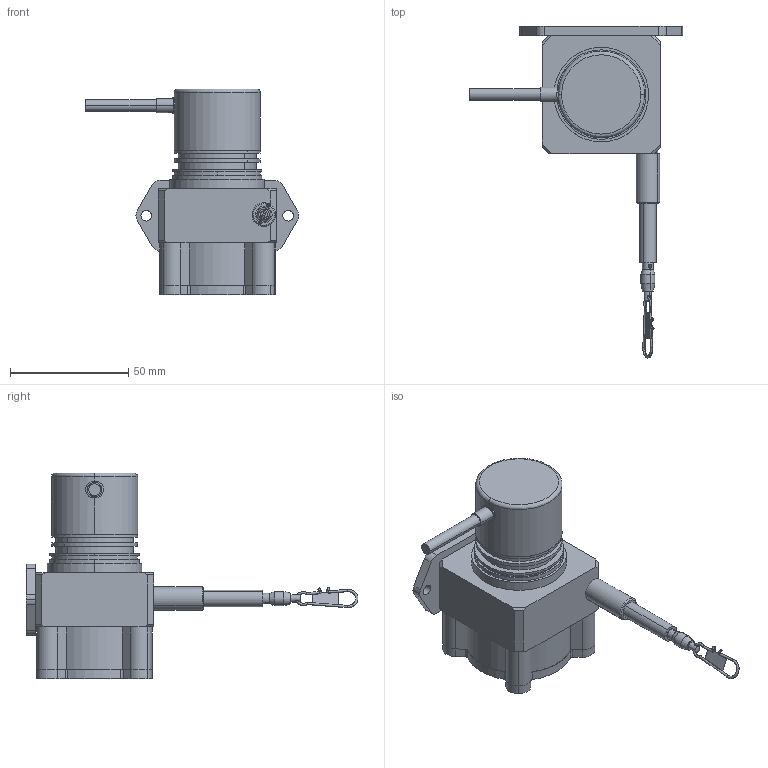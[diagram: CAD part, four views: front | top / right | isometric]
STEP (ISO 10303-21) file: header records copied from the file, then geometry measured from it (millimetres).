
FILE_DESCRIPTION (( 'STEP AP214' ), '1' );
FILE_NAME ('D8.6A1.0125.3642.XXXX.STEP', '2009-04-01T08:24:23', ( 'admin' ), ( 'Fritz Kübler GmbH' ), 'SwSTEP 2.0', 'SolidWorks 2008', '' );
FILE_SCHEMA (( 'AUTOMOTIVE_DESIGN' ));
Length unit declared in the file: millimetre
Products named in the file (1): D8.6A1.0125.3642.XXXX
Bounding box: 90.12 x 140.32 x 87.05 mm (x, y, z)
Volume: 86336.8 mm3; surface area: 48944.8 mm2
Topology: 11 solids, 11 shells, 368 faces, 922 edges, 570 vertices
Faces by surface type: cylinder 203, plane 108, cone 43, bspline 14
Entity records: 16975 total; most frequent: CARTESIAN_POINT 3931, DIRECTION 1932, ORIENTED_EDGE 1776, EDGE_CURVE 888, AXIS2_PLACEMENT_3D 765, VERTEX_POINT 570, EDGE_LOOP 450, CIRCLE 410
